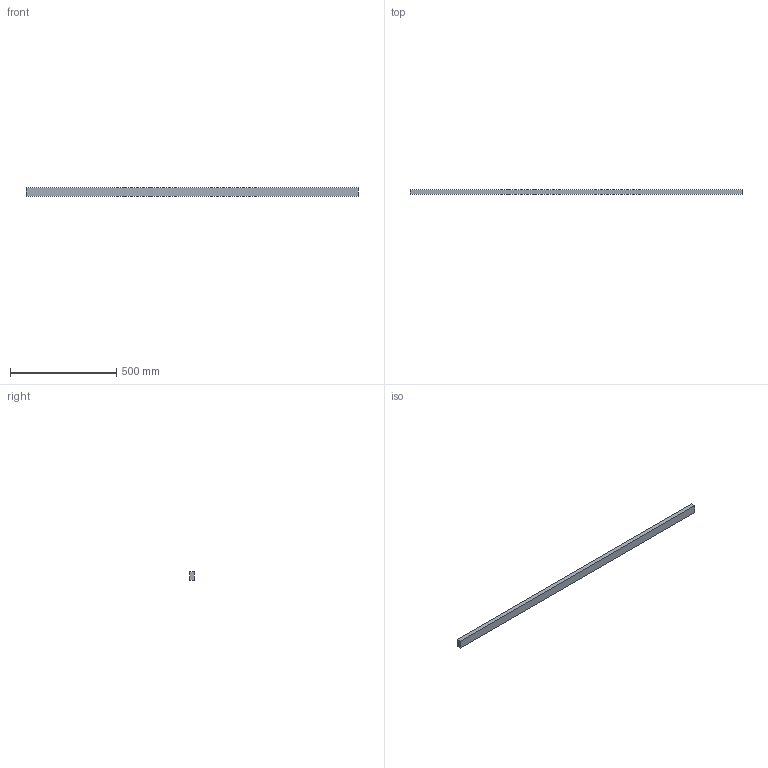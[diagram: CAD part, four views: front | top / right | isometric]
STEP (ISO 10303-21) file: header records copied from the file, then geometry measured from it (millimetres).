
FILE_DESCRIPTION(/* description */ (''),/* implementation_level */ '2;1');
FILE_NAME(/* name */ 'FRAFCB~1',/* time_stamp */ '2014-02-14T19:35:36+01:00',/* author */ (''),/* organization */ (''),/* preprocessor_version */ 'ST-DEVELOPER v14',/* originating_system */ '',/* authorisation */ '');
FILE_SCHEMA (('AUTOMOTIVE_DESIGN'));
Length unit declared in the file: millimetre
Products named in the file (1): Document
Bounding box: 1564 x 20 x 40 mm (x, y, z)
Volume: 1251200 mm3; surface area: 189280 mm2
Topology: 1 solids, 1 shells, 6 faces, 12 edges, 8 vertices
Faces by surface type: plane 6
Entity records: 298 total; most frequent: CARTESIAN_POINT 88, B_SPLINE_CURVE_WITH_KNOTS 36, ORIENTED_EDGE 24, PCURVE 24, DEFINITIONAL_REPRESENTATION 24, SURFACE_CURVE 12, EDGE_CURVE 12, DIRECTION 10
